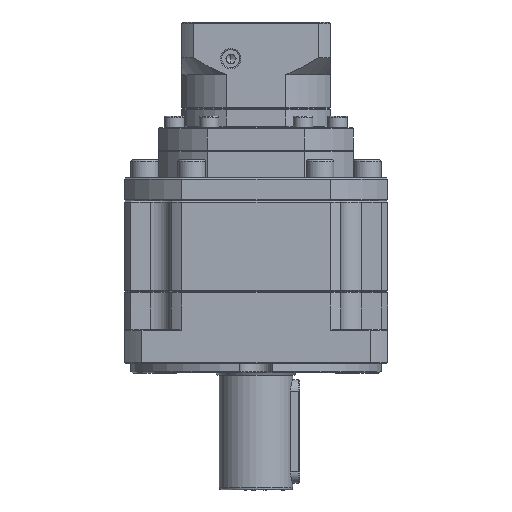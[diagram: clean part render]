
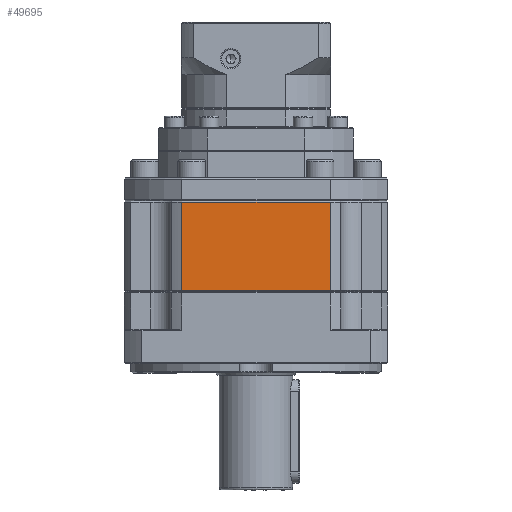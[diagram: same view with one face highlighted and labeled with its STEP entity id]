
A CAD part, left-side view. The second image highlights one B-rep face of the part: STEP entity #49695.
In plain terms, the highlighted planar face has unit normal (-1, 0, 0).
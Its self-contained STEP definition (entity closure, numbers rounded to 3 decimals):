
#2400 = LINE ( 'NONE', #116487, #53374 ) ;
#2787 = ORIENTED_EDGE ( 'NONE', *, *, #66819, .F. ) ;
#2817 = EDGE_LOOP ( 'NONE', ( #8947, #120783, #32526, #2787 ) ) ;
#8947 = ORIENTED_EDGE ( 'NONE', *, *, #17145, .F. ) ;
#10189 = AXIS2_PLACEMENT_3D ( 'NONE', #48582, #115654, #58244 ) ;
#10470 = VERTEX_POINT ( 'NONE', #27820 ) ;
#17145 = EDGE_CURVE ( 'NONE', #101937, #49928, #69862, .T. ) ;
#20268 = DIRECTION ( 'NONE',  ( 0., 0., -1. ) ) ;
#27820 = CARTESIAN_POINT ( 'NONE',  ( 14.374, 5.309, -49.829 ) ) ;
#32330 = VERTEX_POINT ( 'NONE', #68358 ) ;
#32526 = ORIENTED_EDGE ( 'NONE', *, *, #102888, .F. ) ;
#33320 = FACE_OUTER_BOUND ( 'NONE', #2817, .T. ) ;
#37041 = LINE ( 'NONE', #87430, #62542 ) ;
#38963 = DIRECTION ( 'NONE',  ( 0., -1., 0. ) ) ;
#41217 = EDGE_CURVE ( 'NONE', #32330, #101937, #37041, .T. ) ;
#48175 = PLANE ( 'NONE',  #10189 ) ;
#48582 = CARTESIAN_POINT ( 'NONE',  ( 14.374, -84.591, -49.329 ) ) ;
#49695 = ADVANCED_FACE ( 'NONE', ( #33320 ), #48175, .F. ) ;
#49928 = VERTEX_POINT ( 'NONE', #91165 ) ;
#53374 = VECTOR ( 'NONE', #38963, 1000. ) ;
#58244 = DIRECTION ( 'NONE',  ( 0., 1., 0. ) ) ;
#59972 = DIRECTION ( 'NONE',  ( 0., 0., 1. ) ) ;
#62542 = VECTOR ( 'NONE', #20268, 1000. ) ;
#66819 = EDGE_CURVE ( 'NONE', #49928, #10470, #93982, .T. ) ;
#68358 = CARTESIAN_POINT ( 'NONE',  ( 14.374, -59.491, -49.829 ) ) ;
#69862 = LINE ( 'NONE', #74345, #120809 ) ;
#73908 = DIRECTION ( 'NONE',  ( 0., 1., 0. ) ) ;
#74345 = CARTESIAN_POINT ( 'NONE',  ( 14.374, -84.591, -88.329 ) ) ;
#80470 = CARTESIAN_POINT ( 'NONE',  ( 14.374, 5.309, -49.329 ) ) ;
#87430 = CARTESIAN_POINT ( 'NONE',  ( 14.374, -59.491, -49.329 ) ) ;
#91165 = CARTESIAN_POINT ( 'NONE',  ( 14.374, 5.309, -88.329 ) ) ;
#93982 = LINE ( 'NONE', #80470, #119437 ) ;
#101937 = VERTEX_POINT ( 'NONE', #113053 ) ;
#102888 = EDGE_CURVE ( 'NONE', #10470, #32330, #2400, .T. ) ;
#113053 = CARTESIAN_POINT ( 'NONE',  ( 14.374, -59.491, -88.329 ) ) ;
#115654 = DIRECTION ( 'NONE',  ( 1., 0., 0. ) ) ;
#116487 = CARTESIAN_POINT ( 'NONE',  ( 14.374, -27.091, -49.829 ) ) ;
#119437 = VECTOR ( 'NONE', #59972, 1000. ) ;
#120783 = ORIENTED_EDGE ( 'NONE', *, *, #41217, .F. ) ;
#120809 = VECTOR ( 'NONE', #73908, 1000. ) ;
